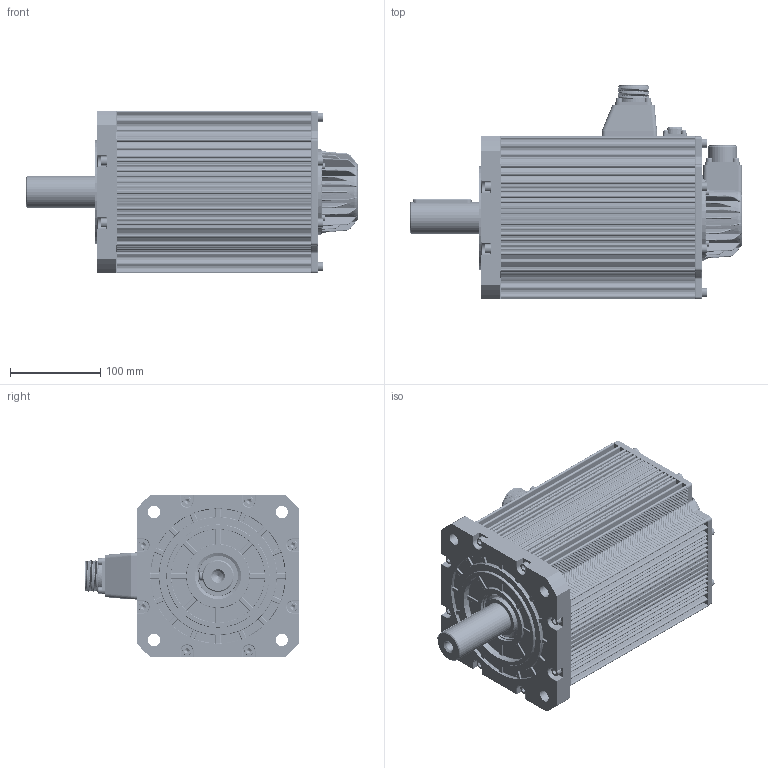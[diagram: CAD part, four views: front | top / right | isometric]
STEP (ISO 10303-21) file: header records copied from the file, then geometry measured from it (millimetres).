
FILE_DESCRIPTION((''),'2;1');
FILE_NAME('11101-01232_ASM','2024-11-14T11:12:49',('0108628'),(''),'CREO PARAMETRIC BY PTC INC, 2019080','CREO PARAMETRIC BY PTC INC, 2019080','');
FILE_SCHEMA(('CONFIG_CONTROL_DESIGN'));
Products named in the file (33): 83040193_AF0; 6206_AF0; 80100282_AF0; JB6695-161_AF0; 12111-00736_AF0_ASM; 80040354_AF0; 5X8L0; 12112-00972_AF0_ASM; YD32-180-TY; YD32-MD; YD32-MDS; DONGLI-HC-5015; YD32-4_ASM; 50030-00180_AF0; GBT7R1-6X25; 58X45X7L00; JB6695-161_AF1; QDG_AF0_ASM; 87800001_AF0; M4X12_AF0; M4X12_AF1; M4X12_AF2; M4X12_AF3; 10X8X65L; ISO4762-M4X6-8_8; 86870277_AF0; XINHAO-HC-5015; BAOZHA-MFD; BAOZHA-MFG; DIN912-M4X40-8_8; DIN912-M4X12-8_8; M3X8; 11101-01232_ASM
Assembly tree (56 placements, depth 3):
  11101-01232_ASM
    12111-00736_AF0_ASM
      83040193_AF0
      6206_AF0
      80100282_AF0
      JB6695-161_AF0
    12112-00972_AF0_ASM
      80040354_AF0
      5X8L0
    YD32-4_ASM
      YD32-180-TY
      YD32-MD
      YD32-MDS
      DONGLI-HC-5015
    QDG_AF0_ASM
      50030-00180_AF0
      GBT7R1-6X25  x8
      58X45X7L00
      JB6695-161_AF1
    87800001_AF0
    M4X12_AF0
    M4X12_AF1
    M4X12_AF2
    M4X12_AF3
    10X8X65L
    GBT7R1-6X25  x8
    ISO4762-M4X6-8_8
    86870277_AF0
    XINHAO-HC-5015
    BAOZHA-MFD
    BAOZHA-MFG
    DIN912-M4X40-8_8  x4
    DIN912-M4X12-8_8  x4
    M3X8  x4
Bounding box: 367 x 237.4 x 180 mm (x, y, z)
Volume: 1972299.2 mm3; surface area: 800208.4 mm2
Topology: 51 solids, 115 shells, 7001 faces, 18170 edges, 11515 vertices
Faces by surface type: plane 2440, cylinder 2255, extrusion 732, bspline 520, cone 512, torus 398, sphere 144
Entity records: 266913 total; most frequent: CARTESIAN_POINT 116088, ORIENTED_EDGE 32674, DIRECTION 29073, EDGE_CURVE 16418, VERTEX_POINT 10549, AXIS2_PLACEMENT_3D 10110, VECTOR 8853, LINE 8121
